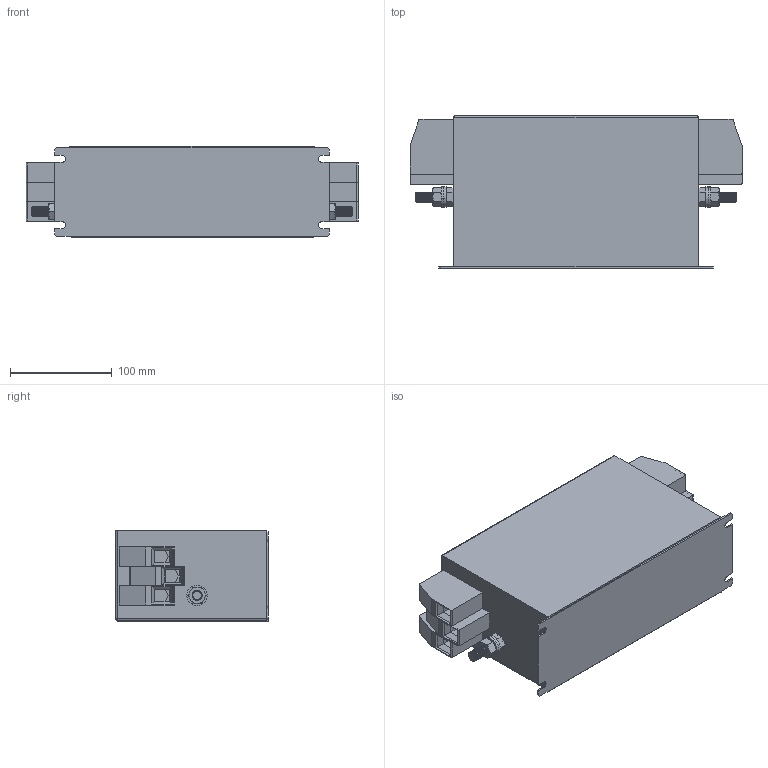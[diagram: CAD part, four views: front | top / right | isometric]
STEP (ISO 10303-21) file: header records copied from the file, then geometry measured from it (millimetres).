
FILE_DESCRIPTION (( 'STEP AP203' ), '1' );
FILE_NAME ('NF-K-100 & 130.STEP', '2020-11-06T13:49:53', ( '' ), ( '' ), 'SwSTEP 2.0', 'SolidWorks 2017', '' );
FILE_SCHEMA (( 'CONFIG_CONTROL_DESIGN' ));
Length unit declared in the file: millimetre
Products named in the file (7): NF-K-100 & 130; flat washer narrow_am_B18.22M - Plain washer, 10 mm, narrow; M10x30 Earth post; HDFK-50; hex nut style 1_am_B18.2.4.1M - Hex nut, Style 1,  M10 x 1.5, with 16mm WAF --D-N; hex screw_am_B18.6.7M - M10 x 1.5 x 30 Indented HHMS --30S
Assembly tree (13 placements, depth 3):
  NF-K-100 & 130
    NF-K-100 & 130
    M10x30 Earth post  x2
      flat washer narrow_am_B18.22M - Plain washer, 10 mm, narrow
      hex nut style 1_am_B18.2.4.1M - Hex nut, Style 1,  M10 x 1.5, with 16mm WAF --D-N
      hex screw_am_B18.6.7M - M10 x 1.5 x 30 Indented HHMS --30S
    HDFK-50  x6
Bounding box: 326.01 x 150 x 90 mm (x, y, z)
Volume: 3280929.2 mm3; surface area: 295458.5 mm2
Topology: 15 solids, 15 shells, 789 faces, 1935 edges, 1226 vertices
Faces by surface type: plane 386, cylinder 201, cone 200, sphere 2
Entity records: 10360 total; most frequent: CARTESIAN_POINT 1815, DIRECTION 1685, ORIENTED_EDGE 1550, EDGE_CURVE 775, AXIS2_PLACEMENT_3D 630, VERTEX_POINT 488, LINE 425, VECTOR 425
